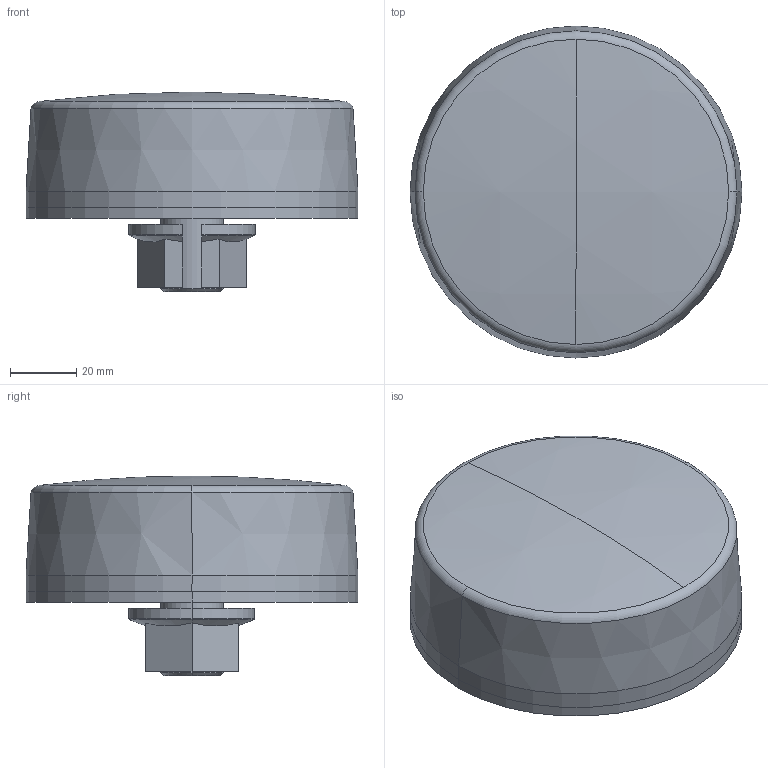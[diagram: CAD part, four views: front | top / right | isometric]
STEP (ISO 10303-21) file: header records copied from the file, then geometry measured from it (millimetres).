
FILE_DESCRIPTION (( 'STEP AP214' ), '1' );
FILE_NAME ('CMS-ANT-PUCK_EXT-0_5M.STEP', '2026-03-12T07:57:37', ( '' ), ( '' ), 'SwSTEP 2.0', 'SolidWorks 2025', '' );
FILE_SCHEMA (( 'AUTOMOTIVE_DESIGN' ));
Length unit declared in the file: millimetre
Products named in the file (1): CMS-ANT-PUCK_EXT-0_5M
Bounding box: 100 x 100 x 60.2 mm (x, y, z)
Volume: 292231.4 mm3; surface area: 45951.6 mm2
Topology: 3 solids, 3 shells, 49 faces, 111 edges, 69 vertices
Faces by surface type: plane 15, cylinder 14, cone 13, torus 5, sphere 2
Entity records: 2017 total; most frequent: CARTESIAN_POINT 317, DIRECTION 247, ORIENTED_EDGE 222, EDGE_CURVE 111, AXIS2_PLACEMENT_3D 101, VERTEX_POINT 69, UNCERTAINTY_MEASURE_WITH_UNIT 53, SURFACE_STYLE_FILL_AREA 52
